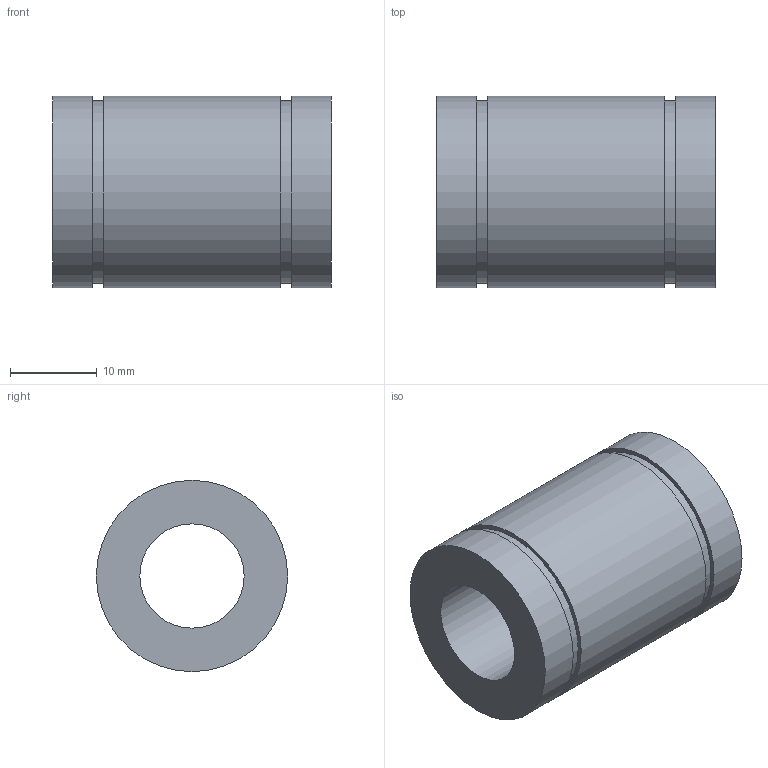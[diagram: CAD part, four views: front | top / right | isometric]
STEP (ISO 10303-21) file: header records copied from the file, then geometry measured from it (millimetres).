
FILE_DESCRIPTION( ( 'STEP AP203' ), '1' );
FILE_NAME( 'p:/temp/worker_105/temp/exporttempdir_4196_646_US4al/format_0/LME12UU.stp', '2020-04-29T03:06:41', ( 'License CC BY-ND 4.0' ), ( 'CADENAS' ), ' ', 'PARTsolutions', ' ' );
FILE_SCHEMA( ( 'CONFIG_CONTROL_DESIGN' ) );
Length unit declared in the file: millimetre
Products named in the file (1): _LME12UU
Bounding box: 32 x 22 x 22 mm (x, y, z)
Volume: 8457.3 mm3; surface area: 4079 mm2
Topology: 1 solids, 1 shells, 12 faces, 18 edges, 12 vertices
Faces by surface type: plane 6, cylinder 6
Full cylindrical faces by diameter (mm): 12 x1, 21 x2, 22 x3
Entity records: 292 total; most frequent: DIRECTION 50, CARTESIAN_POINT 37, AXIS2_PLACEMENT_3D 25, EDGE_LOOP 24, ORIENTED_EDGE 24, FACE_OUTER_BOUND 18, ADVANCED_FACE 12, EDGE_CURVE 12
